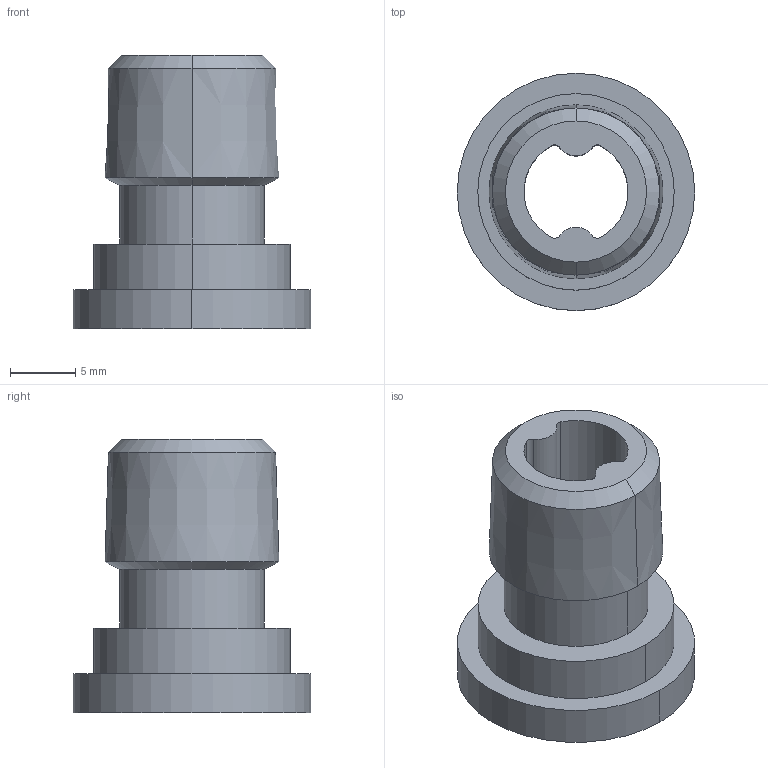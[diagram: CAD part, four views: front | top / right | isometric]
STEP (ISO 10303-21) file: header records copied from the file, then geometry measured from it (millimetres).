
FILE_DESCRIPTION((''),'2;1');
FILE_NAME('14371_14-12(1).stp','2009-11-06T09:19:29',(''),(''),'Mechanical Desktop 2009','Mechanical Desktop 2009',', , ');
FILE_SCHEMA(('CONFIG_CONTROL_DESIGN'));
Length unit declared in the file: millimetre
Products named in the file (2): 4371_14-12(1); CZﾊ姑1
Assembly tree (1 placements, depth 2):
  4371_14-12(1)
    CZﾊ姑1
Bounding box: 18.25 x 18.25 x 21 mm (x, y, z)
Volume: 2217.9 mm3; surface area: 1916.7 mm2
Topology: 1 solids, 1 shells, 24 faces, 54 edges, 34 vertices
Faces by surface type: cylinder 14, cone 6, plane 4
Entity records: 797 total; most frequent: DIRECTION 140, CARTESIAN_POINT 114, ORIENTED_EDGE 108, AXIS2_PLACEMENT_3D 60, EDGE_CURVE 54, VERTEX_POINT 34, CIRCLE 34, EDGE_LOOP 28
